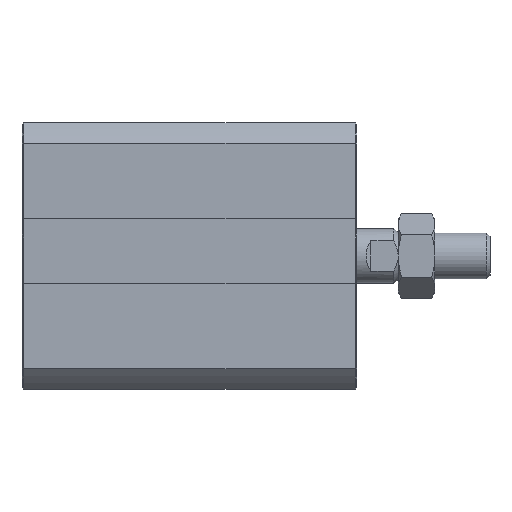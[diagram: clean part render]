
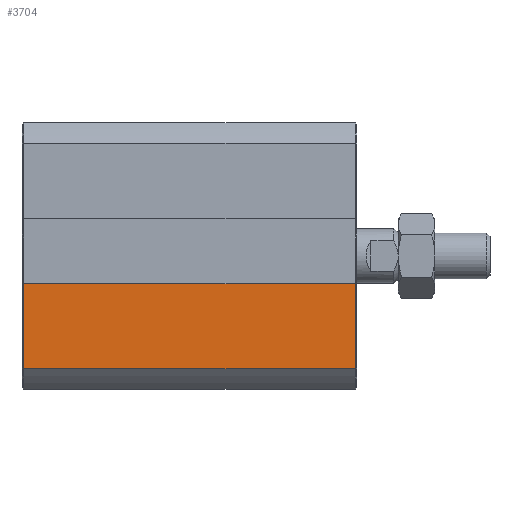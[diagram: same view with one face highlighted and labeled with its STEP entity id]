
A CAD part, left-side view. The second image highlights one B-rep face of the part: STEP entity #3704.
In plain terms, the highlighted planar face has unit normal (-1, 0, 0).
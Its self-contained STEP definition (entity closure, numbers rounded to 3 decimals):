
#143=LINE('',#5155,#335);
#145=LINE('',#5159,#337);
#146=LINE('',#5161,#338);
#147=LINE('',#5163,#339);
#335=VECTOR('',#4417,1000.);
#337=VECTOR('',#4421,1000.);
#338=VECTOR('',#4422,1000.);
#339=VECTOR('',#4423,1000.);
#513=PLANE('',#3950);
#817=ORIENTED_EDGE('',*,*,#1399,.F.);
#818=ORIENTED_EDGE('',*,*,#1401,.T.);
#819=ORIENTED_EDGE('',*,*,#1402,.T.);
#820=ORIENTED_EDGE('',*,*,#1403,.T.);
#1399=EDGE_CURVE('',#1713,#1714,#143,.T.);
#1401=EDGE_CURVE('',#1713,#1715,#145,.T.);
#1402=EDGE_CURVE('',#1715,#1716,#146,.T.);
#1403=EDGE_CURVE('',#1716,#1714,#147,.T.);
#1713=VERTEX_POINT('',#5154);
#1714=VERTEX_POINT('',#5156);
#1715=VERTEX_POINT('',#5160);
#1716=VERTEX_POINT('',#5162);
#2047=EDGE_LOOP('',(#817,#818,#819,#820));
#2271=FACE_BOUND('',#2047,.T.);
#3704=ADVANCED_FACE('',(#2271),#513,.T.);
#3950=AXIS2_PLACEMENT_3D('',#5158,#4419,#4420);
#4417=DIRECTION('',(0.,-1.,0.));
#4419=DIRECTION('',(-1.,0.,0.));
#4420=DIRECTION('',(0.,0.,1.));
#4421=DIRECTION('',(0.,0.,-1.));
#4422=DIRECTION('',(0.,-1.,0.));
#4423=DIRECTION('',(0.,0.,1.));
#5154=CARTESIAN_POINT('',(-14.5,36.3,-3.));
#5155=CARTESIAN_POINT('',(-14.5,26.5,-3.));
#5156=CARTESIAN_POINT('',(-14.5,0.2,-3.));
#5158=CARTESIAN_POINT('',(-14.5,26.5,-12.278));
#5159=CARTESIAN_POINT('',(-14.5,36.3,-12.278));
#5160=CARTESIAN_POINT('',(-14.5,36.3,-12.278));
#5161=CARTESIAN_POINT('',(-14.5,26.5,-12.278));
#5162=CARTESIAN_POINT('',(-14.5,0.2,-12.278));
#5163=CARTESIAN_POINT('',(-14.5,0.2,-12.278));
